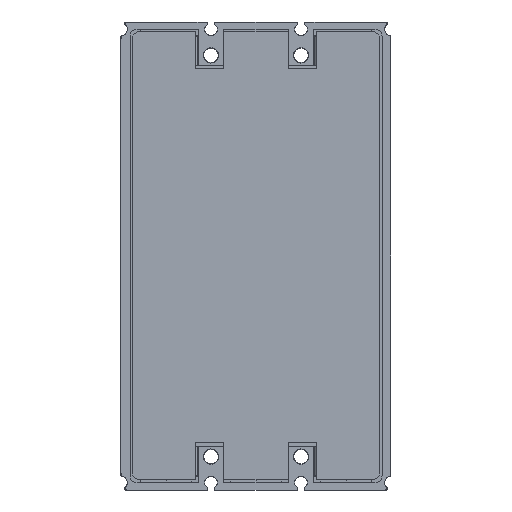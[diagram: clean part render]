
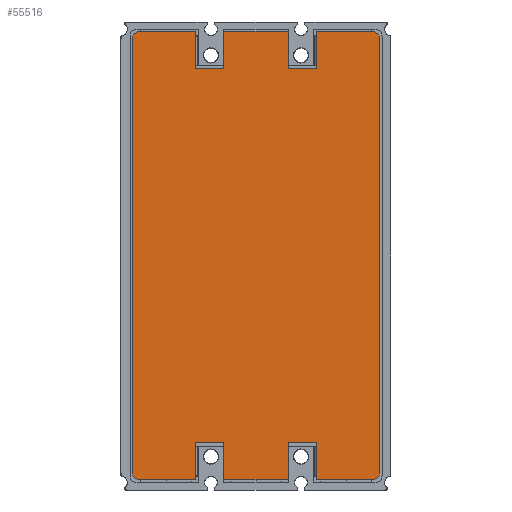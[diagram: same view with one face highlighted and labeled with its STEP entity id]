
A CAD part, front view. The second image highlights one B-rep face of the part: STEP entity #55516.
In plain terms, the highlighted planar face has unit normal (0, -1, 0).
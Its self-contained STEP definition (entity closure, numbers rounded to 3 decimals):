
#55069=CARTESIAN_POINT('',(32.3,-18.5,50.55));
#55070=DIRECTION('',(0.,1.,0.));
#55071=DIRECTION('',(0.,0.,1.));
#55072=AXIS2_PLACEMENT_3D('',#55069,#55070,#55071);
#55074=CARTESIAN_POINT('',(32.3,-18.5,-70.05));
#55075=DIRECTION('',(0.,1.,0.));
#55076=DIRECTION('',(1.,0.,0.));
#55077=AXIS2_PLACEMENT_3D('',#55074,#55075,#55076);
#55079=DIRECTION('',(-1.,0.,0.));
#55080=VECTOR('',#55079,15.6);
#55081=CARTESIAN_POINT('',(32.3,-18.5,-72.05));
#55082=LINE('',#55081,#55080);
#55083=DIRECTION('',(-1.,0.,0.));
#55084=VECTOR('',#55083,17.8);
#55085=CARTESIAN_POINT('',(8.9,-18.5,-72.05));
#55086=LINE('',#55085,#55084);
#55087=DIRECTION('',(-1.,0.,0.));
#55088=VECTOR('',#55087,15.6);
#55089=CARTESIAN_POINT('',(-16.7,-18.5,-72.05));
#55090=LINE('',#55089,#55088);
#55091=CARTESIAN_POINT('',(-32.3,-18.5,-70.05));
#55092=DIRECTION('',(0.,1.,0.));
#55093=DIRECTION('',(0.,0.,-1.));
#55094=AXIS2_PLACEMENT_3D('',#55091,#55092,#55093);
#55096=CARTESIAN_POINT('',(-32.3,-18.5,50.55));
#55097=DIRECTION('',(0.,1.,0.));
#55098=DIRECTION('',(-1.,0.,0.));
#55099=AXIS2_PLACEMENT_3D('',#55096,#55097,#55098);
#55101=DIRECTION('',(1.,0.,0.));
#55102=VECTOR('',#55101,15.6);
#55103=CARTESIAN_POINT('',(-32.3,-18.5,52.55));
#55104=LINE('',#55103,#55102);
#55105=DIRECTION('',(1.,0.,0.));
#55106=VECTOR('',#55105,17.8);
#55107=CARTESIAN_POINT('',(-8.9,-18.5,52.55));
#55108=LINE('',#55107,#55106);
#55109=DIRECTION('',(1.,0.,0.));
#55110=VECTOR('',#55109,15.6);
#55111=CARTESIAN_POINT('',(16.7,-18.5,52.55));
#55112=LINE('',#55111,#55110);
#55221=DIRECTION('',(0.,0.,-1.));
#55222=VECTOR('',#55221,10.3);
#55223=CARTESIAN_POINT('',(16.7,-18.5,52.55));
#55224=LINE('',#55223,#55222);
#55229=DIRECTION('',(-1.,0.,0.));
#55230=VECTOR('',#55229,7.8);
#55231=CARTESIAN_POINT('',(16.7,-18.5,42.25));
#55232=LINE('',#55231,#55230);
#55237=DIRECTION('',(0.,0.,1.));
#55238=VECTOR('',#55237,10.3);
#55239=CARTESIAN_POINT('',(8.9,-18.5,42.25));
#55240=LINE('',#55239,#55238);
#55249=DIRECTION('',(0.,0.,-1.));
#55250=VECTOR('',#55249,10.3);
#55251=CARTESIAN_POINT('',(-8.9,-18.5,52.55));
#55252=LINE('',#55251,#55250);
#55257=DIRECTION('',(-1.,0.,0.));
#55258=VECTOR('',#55257,7.8);
#55259=CARTESIAN_POINT('',(-8.9,-18.5,42.25));
#55260=LINE('',#55259,#55258);
#55265=DIRECTION('',(0.,0.,1.));
#55266=VECTOR('',#55265,10.3);
#55267=CARTESIAN_POINT('',(-16.7,-18.5,42.25));
#55268=LINE('',#55267,#55266);
#55285=DIRECTION('',(0.,0.,-1.));
#55286=VECTOR('',#55285,120.6);
#55287=CARTESIAN_POINT('',(-34.3,-18.5,50.55));
#55288=LINE('',#55287,#55286);
#55297=DIRECTION('',(0.,0.,1.));
#55298=VECTOR('',#55297,10.3);
#55299=CARTESIAN_POINT('',(-16.7,-18.5,-72.05));
#55300=LINE('',#55299,#55298);
#55305=DIRECTION('',(1.,0.,0.));
#55306=VECTOR('',#55305,7.8);
#55307=CARTESIAN_POINT('',(-16.7,-18.5,-61.75));
#55308=LINE('',#55307,#55306);
#55313=DIRECTION('',(0.,0.,-1.));
#55314=VECTOR('',#55313,10.3);
#55315=CARTESIAN_POINT('',(-8.9,-18.5,-61.75));
#55316=LINE('',#55315,#55314);
#55325=DIRECTION('',(0.,0.,1.));
#55326=VECTOR('',#55325,10.3);
#55327=CARTESIAN_POINT('',(8.9,-18.5,-72.05));
#55328=LINE('',#55327,#55326);
#55333=DIRECTION('',(1.,0.,0.));
#55334=VECTOR('',#55333,7.8);
#55335=CARTESIAN_POINT('',(8.9,-18.5,-61.75));
#55336=LINE('',#55335,#55334);
#55341=DIRECTION('',(0.,0.,-1.));
#55342=VECTOR('',#55341,10.3);
#55343=CARTESIAN_POINT('',(16.7,-18.5,-61.75));
#55344=LINE('',#55343,#55342);
#55361=DIRECTION('',(0.,0.,1.));
#55362=VECTOR('',#55361,120.6);
#55363=CARTESIAN_POINT('',(34.3,-18.5,-70.05));
#55364=LINE('',#55363,#55362);
#55365=CARTESIAN_POINT('',(32.3,-18.5,52.55));
#55366=CARTESIAN_POINT('',(34.3,-18.5,50.55));
#55367=VERTEX_POINT('',#55365);
#55368=VERTEX_POINT('',#55366);
#55369=CARTESIAN_POINT('',(34.3,-18.5,-70.05));
#55370=VERTEX_POINT('',#55369);
#55371=CARTESIAN_POINT('',(32.3,-18.5,-72.05));
#55372=VERTEX_POINT('',#55371);
#55373=CARTESIAN_POINT('',(16.7,-18.5,-72.05));
#55374=VERTEX_POINT('',#55373);
#55375=CARTESIAN_POINT('',(16.7,-18.5,-61.75));
#55376=VERTEX_POINT('',#55375);
#55377=CARTESIAN_POINT('',(8.9,-18.5,-61.75));
#55378=VERTEX_POINT('',#55377);
#55379=CARTESIAN_POINT('',(8.9,-18.5,-72.05));
#55380=VERTEX_POINT('',#55379);
#55381=CARTESIAN_POINT('',(-8.9,-18.5,-72.05));
#55382=VERTEX_POINT('',#55381);
#55383=CARTESIAN_POINT('',(-8.9,-18.5,-61.75));
#55384=VERTEX_POINT('',#55383);
#55385=CARTESIAN_POINT('',(-16.7,-18.5,-61.75));
#55386=VERTEX_POINT('',#55385);
#55387=CARTESIAN_POINT('',(-16.7,-18.5,-72.05));
#55388=VERTEX_POINT('',#55387);
#55389=CARTESIAN_POINT('',(-32.3,-18.5,-72.05));
#55390=VERTEX_POINT('',#55389);
#55391=CARTESIAN_POINT('',(-34.3,-18.5,-70.05));
#55392=VERTEX_POINT('',#55391);
#55393=CARTESIAN_POINT('',(-34.3,-18.5,50.55));
#55394=VERTEX_POINT('',#55393);
#55395=CARTESIAN_POINT('',(-32.3,-18.5,52.55));
#55396=VERTEX_POINT('',#55395);
#55397=CARTESIAN_POINT('',(-16.7,-18.5,52.55));
#55398=VERTEX_POINT('',#55397);
#55399=CARTESIAN_POINT('',(-16.7,-18.5,42.25));
#55400=VERTEX_POINT('',#55399);
#55401=CARTESIAN_POINT('',(-8.9,-18.5,42.25));
#55402=VERTEX_POINT('',#55401);
#55403=CARTESIAN_POINT('',(-8.9,-18.5,52.55));
#55404=VERTEX_POINT('',#55403);
#55405=CARTESIAN_POINT('',(8.9,-18.5,52.55));
#55406=VERTEX_POINT('',#55405);
#55407=CARTESIAN_POINT('',(8.9,-18.5,42.25));
#55408=VERTEX_POINT('',#55407);
#55409=CARTESIAN_POINT('',(16.7,-18.5,42.25));
#55410=VERTEX_POINT('',#55409);
#55411=CARTESIAN_POINT('',(16.7,-18.5,52.55));
#55412=VERTEX_POINT('',#55411);
#55461=CARTESIAN_POINT('',(0.,-18.5,-9.75));
#55462=DIRECTION('',(0.,1.,0.));
#55463=DIRECTION('',(1.,0.,0.));
#55464=AXIS2_PLACEMENT_3D('',#55461,#55462,#55463);
#55465=PLANE('',#55464);
#55467=ORIENTED_EDGE('',*,*,#55466,.T.);
#55469=ORIENTED_EDGE('',*,*,#55468,.F.);
#55471=ORIENTED_EDGE('',*,*,#55470,.T.);
#55473=ORIENTED_EDGE('',*,*,#55472,.T.);
#55475=ORIENTED_EDGE('',*,*,#55474,.F.);
#55477=ORIENTED_EDGE('',*,*,#55476,.F.);
#55479=ORIENTED_EDGE('',*,*,#55478,.F.);
#55481=ORIENTED_EDGE('',*,*,#55480,.T.);
#55483=ORIENTED_EDGE('',*,*,#55482,.F.);
#55485=ORIENTED_EDGE('',*,*,#55484,.F.);
#55487=ORIENTED_EDGE('',*,*,#55486,.F.);
#55489=ORIENTED_EDGE('',*,*,#55488,.T.);
#55491=ORIENTED_EDGE('',*,*,#55490,.T.);
#55493=ORIENTED_EDGE('',*,*,#55492,.F.);
#55495=ORIENTED_EDGE('',*,*,#55494,.T.);
#55497=ORIENTED_EDGE('',*,*,#55496,.T.);
#55499=ORIENTED_EDGE('',*,*,#55498,.F.);
#55501=ORIENTED_EDGE('',*,*,#55500,.F.);
#55503=ORIENTED_EDGE('',*,*,#55502,.F.);
#55505=ORIENTED_EDGE('',*,*,#55504,.T.);
#55507=ORIENTED_EDGE('',*,*,#55506,.F.);
#55509=ORIENTED_EDGE('',*,*,#55508,.F.);
#55511=ORIENTED_EDGE('',*,*,#55510,.F.);
#55513=ORIENTED_EDGE('',*,*,#55512,.T.);
#55514=EDGE_LOOP('',(#55467,#55469,#55471,#55473,#55475,#55477,#55479,#55481,
#55483,#55485,#55487,#55489,#55491,#55493,#55495,#55497,#55499,#55501,#55503,
#55505,#55507,#55509,#55511,#55513));
#55515=FACE_OUTER_BOUND('',#55514,.F.);
#55516=ADVANCED_FACE('',(#55515),#55465,.F.);
#55073=CIRCLE('',#55072,2.);
#55078=CIRCLE('',#55077,2.);
#55095=CIRCLE('',#55094,2.);
#55100=CIRCLE('',#55099,2.);
#55466=EDGE_CURVE('',#55367,#55368,#55073,.T.);
#55468=EDGE_CURVE('',#55370,#55368,#55364,.T.);
#55470=EDGE_CURVE('',#55370,#55372,#55078,.T.);
#55472=EDGE_CURVE('',#55372,#55374,#55082,.T.);
#55474=EDGE_CURVE('',#55376,#55374,#55344,.T.);
#55476=EDGE_CURVE('',#55378,#55376,#55336,.T.);
#55478=EDGE_CURVE('',#55380,#55378,#55328,.T.);
#55480=EDGE_CURVE('',#55380,#55382,#55086,.T.);
#55482=EDGE_CURVE('',#55384,#55382,#55316,.T.);
#55484=EDGE_CURVE('',#55386,#55384,#55308,.T.);
#55486=EDGE_CURVE('',#55388,#55386,#55300,.T.);
#55488=EDGE_CURVE('',#55388,#55390,#55090,.T.);
#55490=EDGE_CURVE('',#55390,#55392,#55095,.T.);
#55492=EDGE_CURVE('',#55394,#55392,#55288,.T.);
#55494=EDGE_CURVE('',#55394,#55396,#55100,.T.);
#55496=EDGE_CURVE('',#55396,#55398,#55104,.T.);
#55498=EDGE_CURVE('',#55400,#55398,#55268,.T.);
#55500=EDGE_CURVE('',#55402,#55400,#55260,.T.);
#55502=EDGE_CURVE('',#55404,#55402,#55252,.T.);
#55504=EDGE_CURVE('',#55404,#55406,#55108,.T.);
#55506=EDGE_CURVE('',#55408,#55406,#55240,.T.);
#55508=EDGE_CURVE('',#55410,#55408,#55232,.T.);
#55510=EDGE_CURVE('',#55412,#55410,#55224,.T.);
#55512=EDGE_CURVE('',#55412,#55367,#55112,.T.);
